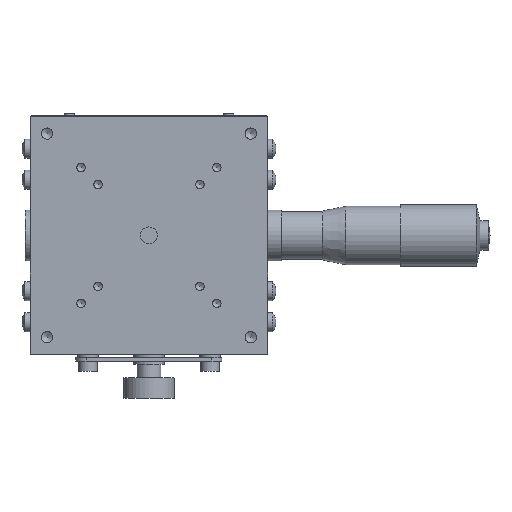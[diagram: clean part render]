
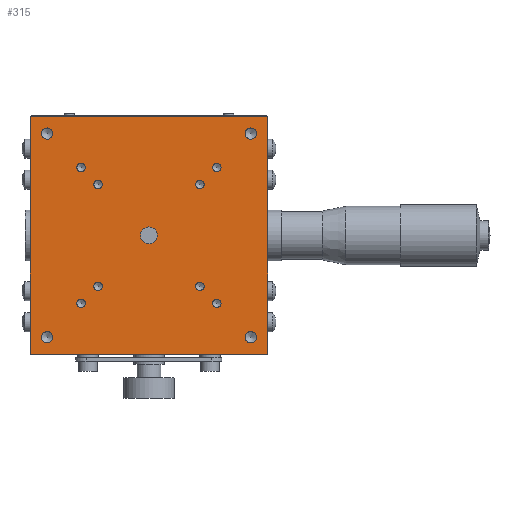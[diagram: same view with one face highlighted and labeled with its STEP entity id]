
A CAD part, top view. The second image highlights one B-rep face of the part: STEP entity #315.
In plain terms, the highlighted planar face has unit normal (0, 0, 1).
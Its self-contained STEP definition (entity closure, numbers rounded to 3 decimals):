
#315 = ADVANCED_FACE( '', ( #733, #734, #735, #736, #737, #738, #739, #740, #741, #742, #743, #744, #745, #746 ), #747, .T. );
#733 = FACE_BOUND( '', #1261, .T. );
#734 = FACE_BOUND( '', #1262, .T. );
#735 = FACE_BOUND( '', #1263, .T. );
#736 = FACE_BOUND( '', #1264, .T. );
#737 = FACE_BOUND( '', #1265, .T. );
#738 = FACE_BOUND( '', #1266, .T. );
#739 = FACE_BOUND( '', #1267, .T. );
#740 = FACE_BOUND( '', #1268, .T. );
#741 = FACE_BOUND( '', #1269, .T. );
#742 = FACE_BOUND( '', #1270, .T. );
#743 = FACE_BOUND( '', #1271, .T. );
#744 = FACE_BOUND( '', #1272, .T. );
#745 = FACE_OUTER_BOUND( '', #1273, .T. );
#746 = FACE_BOUND( '', #1274, .T. );
#747 = PLANE( '', #1275 );
#1261 = EDGE_LOOP( '', ( #2442 ) );
#1262 = EDGE_LOOP( '', ( #2443 ) );
#1263 = EDGE_LOOP( '', ( #2444 ) );
#1264 = EDGE_LOOP( '', ( #2445 ) );
#1265 = EDGE_LOOP( '', ( #2446 ) );
#1266 = EDGE_LOOP( '', ( #2447 ) );
#1267 = EDGE_LOOP( '', ( #2448 ) );
#1268 = EDGE_LOOP( '', ( #2449 ) );
#1269 = EDGE_LOOP( '', ( #2450 ) );
#1270 = EDGE_LOOP( '', ( #2451 ) );
#1271 = EDGE_LOOP( '', ( #2452 ) );
#1272 = EDGE_LOOP( '', ( #2453 ) );
#1273 = EDGE_LOOP( '', ( #2454, #2455, #2456, #2457 ) );
#1274 = EDGE_LOOP( '', ( #2458 ) );
#1275 = AXIS2_PLACEMENT_3D( '', #2459, #2460, #2461 );
#2442 = ORIENTED_EDGE( '', *, *, #3016, .F. );
#2443 = ORIENTED_EDGE( '', *, *, #3017, .F. );
#2444 = ORIENTED_EDGE( '', *, *, #3018, .F. );
#2445 = ORIENTED_EDGE( '', *, *, #3019, .F. );
#2446 = ORIENTED_EDGE( '', *, *, #3020, .F. );
#2447 = ORIENTED_EDGE( '', *, *, #3021, .F. );
#2448 = ORIENTED_EDGE( '', *, *, #3022, .F. );
#2449 = ORIENTED_EDGE( '', *, *, #3023, .F. );
#2450 = ORIENTED_EDGE( '', *, *, #3024, .F. );
#2451 = ORIENTED_EDGE( '', *, *, #3025, .F. );
#2452 = ORIENTED_EDGE( '', *, *, #3026, .F. );
#2453 = ORIENTED_EDGE( '', *, *, #3001, .F. );
#2454 = ORIENTED_EDGE( '', *, *, #3027, .F. );
#2455 = ORIENTED_EDGE( '', *, *, #2970, .F. );
#2456 = ORIENTED_EDGE( '', *, *, #2942, .F. );
#2457 = ORIENTED_EDGE( '', *, *, #2953, .F. );
#2458 = ORIENTED_EDGE( '', *, *, #2994, .T. );
#2459 = CARTESIAN_POINT( '', ( 0., 0., 26. ) );
#2460 = DIRECTION( '', ( 0., 0., 1. ) );
#2461 = DIRECTION( '', ( 1., 0., 0. ) );
#2942 = EDGE_CURVE( '', #3465, #3467, #3468, .T. );
#2953 = EDGE_CURVE( '', #3486, #3465, #3488, .T. );
#2970 = EDGE_CURVE( '', #3467, #3520, #3521, .T. );
#2994 = EDGE_CURVE( '', #3557, #3557, #3558, .T. );
#3001 = EDGE_CURVE( '', #3567, #3567, #3568, .T. );
#3016 = EDGE_CURVE( '', #3596, #3596, #3597, .T. );
#3017 = EDGE_CURVE( '', #3598, #3598, #3599, .T. );
#3018 = EDGE_CURVE( '', #3600, #3600, #3601, .T. );
#3019 = EDGE_CURVE( '', #3602, #3602, #3603, .T. );
#3020 = EDGE_CURVE( '', #3604, #3604, #3605, .T. );
#3021 = EDGE_CURVE( '', #3606, #3606, #3607, .T. );
#3022 = EDGE_CURVE( '', #3608, #3608, #3609, .T. );
#3023 = EDGE_CURVE( '', #3610, #3610, #3611, .T. );
#3024 = EDGE_CURVE( '', #3612, #3612, #3613, .T. );
#3025 = EDGE_CURVE( '', #3614, #3614, #3615, .T. );
#3026 = EDGE_CURVE( '', #3616, #3616, #3617, .T. );
#3027 = EDGE_CURVE( '', #3520, #3486, #3618, .T. );
#3465 = VERTEX_POINT( '', #4521 );
#3467 = VERTEX_POINT( '', #4524 );
#3468 = LINE( '', #4525, #4526 );
#3486 = VERTEX_POINT( '', #4550 );
#3488 = LINE( '', #4553, #4554 );
#3520 = VERTEX_POINT( '', #4600 );
#3521 = LINE( '', #4601, #4602 );
#3557 = VERTEX_POINT( '', #4648 );
#3558 = CIRCLE( '', #4649, 2.5 );
#3567 = VERTEX_POINT( '', #4658 );
#3568 = CIRCLE( '', #4659, 1.65 );
#3596 = VERTEX_POINT( '', #4687 );
#3597 = CIRCLE( '', #4688, 1.25 );
#3598 = VERTEX_POINT( '', #4689 );
#3599 = CIRCLE( '', #4690, 1.25 );
#3600 = VERTEX_POINT( '', #4691 );
#3601 = CIRCLE( '', #4692, 1.25 );
#3602 = VERTEX_POINT( '', #4693 );
#3603 = CIRCLE( '', #4694, 1.25 );
#3604 = VERTEX_POINT( '', #4695 );
#3605 = CIRCLE( '', #4696, 1.25 );
#3606 = VERTEX_POINT( '', #4697 );
#3607 = CIRCLE( '', #4698, 1.25 );
#3608 = VERTEX_POINT( '', #4699 );
#3609 = CIRCLE( '', #4700, 1.25 );
#3610 = VERTEX_POINT( '', #4701 );
#3611 = CIRCLE( '', #4702, 1.25 );
#3612 = VERTEX_POINT( '', #4703 );
#3613 = CIRCLE( '', #4704, 1.65 );
#3614 = VERTEX_POINT( '', #4705 );
#3615 = CIRCLE( '', #4706, 1.65 );
#3616 = VERTEX_POINT( '', #4707 );
#3617 = CIRCLE( '', #4708, 1.65 );
#3618 = LINE( '', #4709, #4710 );
#4521 = CARTESIAN_POINT( '', ( -35., 35., 26. ) );
#4524 = CARTESIAN_POINT( '', ( 35., 35., 26. ) );
#4525 = CARTESIAN_POINT( '', ( 0., 35., 26. ) );
#4526 = VECTOR( '', #5210, 1000. );
#4550 = CARTESIAN_POINT( '', ( -35., -35., 26. ) );
#4553 = CARTESIAN_POINT( '', ( -35., 0., 26. ) );
#4554 = VECTOR( '', #5227, 1000. );
#4600 = CARTESIAN_POINT( '', ( 35., -35., 26. ) );
#4601 = CARTESIAN_POINT( '', ( 35., 0., 26. ) );
#4602 = VECTOR( '', #5248, 1000. );
#4648 = CARTESIAN_POINT( '', ( 0., -2.5, 26. ) );
#4649 = AXIS2_PLACEMENT_3D( '', #5298, #5299, #5300 );
#4658 = CARTESIAN_POINT( '', ( -28.35, -30., 26. ) );
#4659 = AXIS2_PLACEMENT_3D( '', #5319, #5320, #5321 );
#4687 = CARTESIAN_POINT( '', ( 16.25, -15., 26. ) );
#4688 = AXIS2_PLACEMENT_3D( '', #5364, #5365, #5366 );
#4689 = CARTESIAN_POINT( '', ( 16.25, 15., 26. ) );
#4690 = AXIS2_PLACEMENT_3D( '', #5367, #5368, #5369 );
#4691 = CARTESIAN_POINT( '', ( -13.75, 15., 26. ) );
#4692 = AXIS2_PLACEMENT_3D( '', #5370, #5371, #5372 );
#4693 = CARTESIAN_POINT( '', ( -13.75, -15., 26. ) );
#4694 = AXIS2_PLACEMENT_3D( '', #5373, #5374, #5375 );
#4695 = CARTESIAN_POINT( '', ( 21.25, -20., 26. ) );
#4696 = AXIS2_PLACEMENT_3D( '', #5376, #5377, #5378 );
#4697 = CARTESIAN_POINT( '', ( 21.25, 20., 26. ) );
#4698 = AXIS2_PLACEMENT_3D( '', #5379, #5380, #5381 );
#4699 = CARTESIAN_POINT( '', ( -18.75, 20., 26. ) );
#4700 = AXIS2_PLACEMENT_3D( '', #5382, #5383, #5384 );
#4701 = CARTESIAN_POINT( '', ( -18.75, -20., 26. ) );
#4702 = AXIS2_PLACEMENT_3D( '', #5385, #5386, #5387 );
#4703 = CARTESIAN_POINT( '', ( -28.35, 30., 26. ) );
#4704 = AXIS2_PLACEMENT_3D( '', #5388, #5389, #5390 );
#4705 = CARTESIAN_POINT( '', ( 31.65, 30., 26. ) );
#4706 = AXIS2_PLACEMENT_3D( '', #5391, #5392, #5393 );
#4707 = CARTESIAN_POINT( '', ( 31.65, -30., 26. ) );
#4708 = AXIS2_PLACEMENT_3D( '', #5394, #5395, #5396 );
#4709 = CARTESIAN_POINT( '', ( 0., -35., 26. ) );
#4710 = VECTOR( '', #5397, 1000. );
#5210 = DIRECTION( '', ( 1., 0., 0. ) );
#5227 = DIRECTION( '', ( 0., 1., 0. ) );
#5248 = DIRECTION( '', ( 0., -1., 0. ) );
#5298 = CARTESIAN_POINT( '', ( 0., 0., 26. ) );
#5299 = DIRECTION( '', ( 0., 0., -1. ) );
#5300 = DIRECTION( '', ( 0., -1., 0. ) );
#5319 = CARTESIAN_POINT( '', ( -30., -30., 26. ) );
#5320 = DIRECTION( '', ( 0., 0., 1. ) );
#5321 = DIRECTION( '', ( 1., 0., 0. ) );
#5364 = CARTESIAN_POINT( '', ( 15., -15., 26. ) );
#5365 = DIRECTION( '', ( 0., 0., 1. ) );
#5366 = DIRECTION( '', ( 1., 0., 0. ) );
#5367 = CARTESIAN_POINT( '', ( 15., 15., 26. ) );
#5368 = DIRECTION( '', ( 0., 0., 1. ) );
#5369 = DIRECTION( '', ( 1., 0., 0. ) );
#5370 = CARTESIAN_POINT( '', ( -15., 15., 26. ) );
#5371 = DIRECTION( '', ( 0., 0., 1. ) );
#5372 = DIRECTION( '', ( 1., 0., 0. ) );
#5373 = CARTESIAN_POINT( '', ( -15., -15., 26. ) );
#5374 = DIRECTION( '', ( 0., 0., 1. ) );
#5375 = DIRECTION( '', ( 1., 0., 0. ) );
#5376 = CARTESIAN_POINT( '', ( 20., -20., 26. ) );
#5377 = DIRECTION( '', ( 0., 0., 1. ) );
#5378 = DIRECTION( '', ( 1., 0., 0. ) );
#5379 = CARTESIAN_POINT( '', ( 20., 20., 26. ) );
#5380 = DIRECTION( '', ( 0., 0., 1. ) );
#5381 = DIRECTION( '', ( 1., 0., 0. ) );
#5382 = CARTESIAN_POINT( '', ( -20., 20., 26. ) );
#5383 = DIRECTION( '', ( 0., 0., 1. ) );
#5384 = DIRECTION( '', ( 1., 0., 0. ) );
#5385 = CARTESIAN_POINT( '', ( -20., -20., 26. ) );
#5386 = DIRECTION( '', ( 0., 0., 1. ) );
#5387 = DIRECTION( '', ( 1., 0., 0. ) );
#5388 = CARTESIAN_POINT( '', ( -30., 30., 26. ) );
#5389 = DIRECTION( '', ( 0., 0., 1. ) );
#5390 = DIRECTION( '', ( 1., 0., 0. ) );
#5391 = CARTESIAN_POINT( '', ( 30., 30., 26. ) );
#5392 = DIRECTION( '', ( 0., 0., 1. ) );
#5393 = DIRECTION( '', ( 1., 0., 0. ) );
#5394 = CARTESIAN_POINT( '', ( 30., -30., 26. ) );
#5395 = DIRECTION( '', ( 0., 0., 1. ) );
#5396 = DIRECTION( '', ( 1., 0., 0. ) );
#5397 = DIRECTION( '', ( -1., 0., 0. ) );
